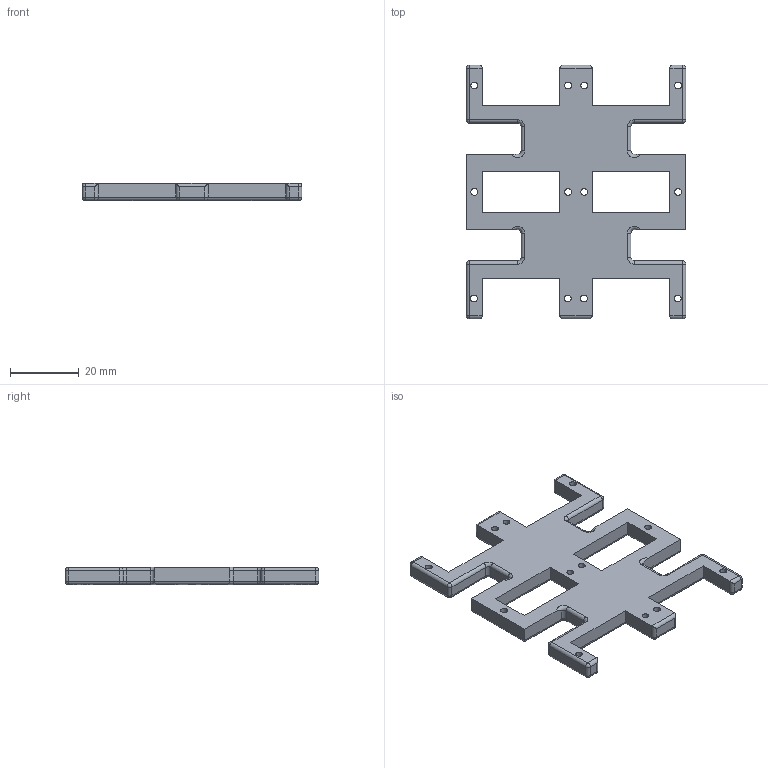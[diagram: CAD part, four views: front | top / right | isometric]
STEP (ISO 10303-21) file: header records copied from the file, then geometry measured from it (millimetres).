
FILE_DESCRIPTION(/* description */ ('STEP AP242 Edition 2','CAx-IF Rec.Pracs.---Representation and Presentation of Product Manufacturing Information (PMI)---4.0---2014-10-13','CAx-IF Rec.Pracs.---3D Tessellated Geometry---0.4---2014-09-14','2;1','CAx-IF Rec.Pracs.---User Defined Attributes---1.5---2016-08-15'),/* implementation_level */ '2;1');
FILE_NAME(/* name */ 'Assembly 1 - Part 1 (58)',/* time_stamp */ '2026-06-04T16:20:01Z',/* author */ (''),/* organization */ (''),/* preprocessor_version */ 'ST-DEVELOPER v20',/* originating_system */ 'ONSHAPE BY PTC INC, 1.215',/* authorisation */ ' ');
FILE_SCHEMA (('AP242_MANAGED_MODEL_BASED_3D_ENGINEERING_MIM_LF { 1 0 10303 442 3 1 4 }'));
Length unit declared in the file: metre
Products named in the file (1): Part 1
Bounding box: 63.8 x 73.6 x 5 mm (x, y, z)
Volume: 12216.3 mm3; surface area: 8079.1 mm2
Topology: 1 solids, 1 shells, 200 faces, 520 edges, 284 vertices
Faces by surface type: cylinder 98, plane 50, torus 28, sphere 24
Full cylindrical faces by diameter (mm): 2 x12
Entity records: 5716 total; most frequent: DIRECTION 1042, CARTESIAN_POINT 1021, ORIENTED_EDGE 920, EDGE_CURVE 460, AXIS2_PLACEMENT_3D 403, VERTEX_POINT 272, EDGE_LOOP 238, FACE_BOUND 238
